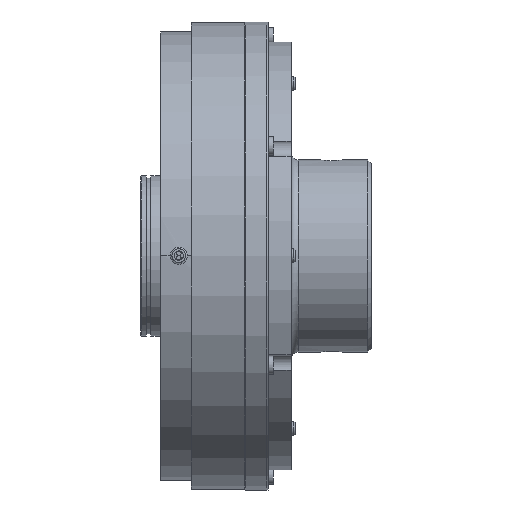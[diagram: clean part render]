
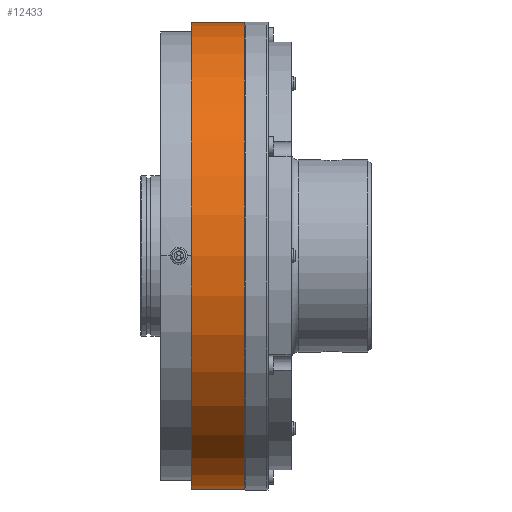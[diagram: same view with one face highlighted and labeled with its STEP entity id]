
A CAD part, top view. The second image highlights one B-rep face of the part: STEP entity #12433.
In plain terms, the highlighted cylindrical face has radius 204 mm (diameter 408 mm), a full revolution.
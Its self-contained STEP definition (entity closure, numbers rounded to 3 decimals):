
#942=FACE_OUTER_BOUND('',#1709,.T.);
#1709=EDGE_LOOP('',(#9335,#9336,#9337,#9338,#9339,#9340));
#2652=CIRCLE('',#13558,204.);
#2653=CIRCLE('',#13559,204.);
#2682=CIRCLE('',#13598,204.);
#2683=CIRCLE('',#13599,204.);
#3594=LINE('',#20718,#4205);
#4205=VECTOR('',#16440,204.);
#5080=VERTEX_POINT('',#20638);
#5081=VERTEX_POINT('',#20639);
#5110=VERTEX_POINT('',#20713);
#5111=VERTEX_POINT('',#20714);
#6624=EDGE_CURVE('',#5080,#5081,#2652,.T.);
#6625=EDGE_CURVE('',#5081,#5080,#2653,.T.);
#6659=EDGE_CURVE('',#5110,#5111,#2682,.T.);
#6660=EDGE_CURVE('',#5111,#5110,#2683,.T.);
#6661=EDGE_CURVE('',#5081,#5111,#3594,.T.);
#9335=ORIENTED_EDGE('',*,*,#6624,.F.);
#9336=ORIENTED_EDGE('',*,*,#6625,.F.);
#9337=ORIENTED_EDGE('',*,*,#6661,.T.);
#9338=ORIENTED_EDGE('',*,*,#6660,.T.);
#9339=ORIENTED_EDGE('',*,*,#6659,.T.);
#9340=ORIENTED_EDGE('',*,*,#6661,.F.);
#11655=CYLINDRICAL_SURFACE('',#13600,204.);
#12433=ADVANCED_FACE('',(#942),#11655,.T.);
#13558=AXIS2_PLACEMENT_3D('',#20640,#16349,#16350);
#13559=AXIS2_PLACEMENT_3D('',#20641,#16351,#16352);
#13598=AXIS2_PLACEMENT_3D('',#20715,#16434,#16435);
#13599=AXIS2_PLACEMENT_3D('',#20716,#16436,#16437);
#13600=AXIS2_PLACEMENT_3D('',#20717,#16438,#16439);
#16349=DIRECTION('center_axis',(1.,0.,0.));
#16350=DIRECTION('ref_axis',(0.,0.,
-1.));
#16351=DIRECTION('center_axis',(1.,0.,0.));
#16352=DIRECTION('ref_axis',(0.,0.,
-1.));
#16434=DIRECTION('center_axis',(1.,0.,0.));
#16435=DIRECTION('ref_axis',(0.,0.,
-1.));
#16436=DIRECTION('center_axis',(1.,0.,0.));
#16437=DIRECTION('ref_axis',(0.,0.,
-1.));
#16438=DIRECTION('center_axis',(1.,0.,0.));
#16439=DIRECTION('ref_axis',(0.,0.,
-1.));
#16440=DIRECTION('',(-1.,0.,0.));
#20638=CARTESIAN_POINT('',(47.85,0.,-204.));
#20639=CARTESIAN_POINT('',(47.85,0.,204.));
#20640=CARTESIAN_POINT('Origin',(47.85,0.,
0.));
#20641=CARTESIAN_POINT('Origin',(47.85,0.,
0.));
#20713=CARTESIAN_POINT('',(1.15,0.,-204.));
#20714=CARTESIAN_POINT('',(1.15,0.,204.));
#20715=CARTESIAN_POINT('Origin',(1.15,0.,
0.));
#20716=CARTESIAN_POINT('Origin',(1.15,0.,
0.));
#20717=CARTESIAN_POINT('Origin',(24.5,0.,
0.));
#20718=CARTESIAN_POINT('',(24.5,0.,204.));
